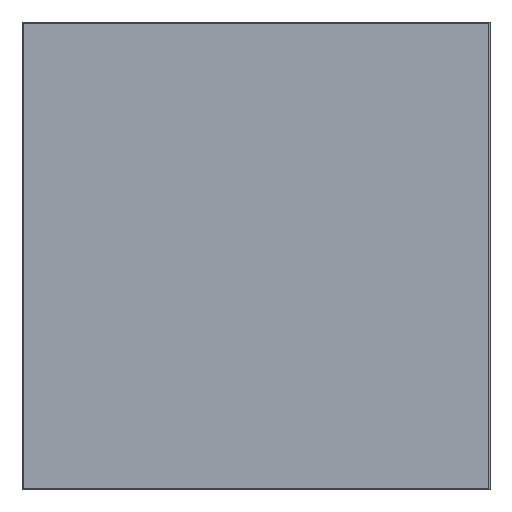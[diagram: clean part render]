
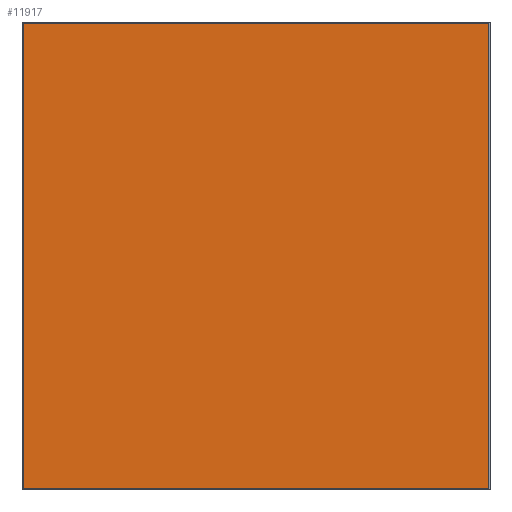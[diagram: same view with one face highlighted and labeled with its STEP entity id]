
A CAD part, top view. The second image highlights one B-rep face of the part: STEP entity #11917.
In plain terms, the highlighted planar face has unit normal (0, 0, 1).
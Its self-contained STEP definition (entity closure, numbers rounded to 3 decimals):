
#11878=CARTESIAN_POINT('',(0.,0.,20.));
#11879=DIRECTION('',(1.,0.,0.));
#11880=DIRECTION('',(0.,0.,1.));
#11881=AXIS2_PLACEMENT_3D('',#11878,#11880,#11879);
#11882=PLANE('',#11881);
#11883=CARTESIAN_POINT('',(348.5,-348.5,20.));
#11884=VERTEX_POINT('',#11883);
#11885=CARTESIAN_POINT('',(348.5,348.5,20.));
#11886=VERTEX_POINT('',#11885);
#11887=CARTESIAN_POINT('',(348.5,-348.5,20.));
#11888=DIRECTION('',(0.,1.,0.));
#11889=VECTOR('',#11888,697.);
#11890=LINE('',#11887,#11889);
#11891=EDGE_CURVE('',#11884,#11886,#11890,.T.);
#11892=ORIENTED_EDGE('E118',*,*,#11891,.T.);
#11893=CARTESIAN_POINT('',(-348.5,348.5,20.));
#11894=VERTEX_POINT('',#11893);
#11895=CARTESIAN_POINT('',(348.5,348.5,20.));
#11896=DIRECTION('',(-1.,0.,0.));
#11897=VECTOR('',#11896,697.);
#11898=LINE('',#11895,#11897);
#11899=EDGE_CURVE('',#11886,#11894,#11898,.T.);
#11900=ORIENTED_EDGE('E119',*,*,#11899,.T.);
#11901=CARTESIAN_POINT('',(-348.5,-348.5,20.));
#11902=VERTEX_POINT('',#11901);
#11903=CARTESIAN_POINT('',(-348.5,348.5,20.));
#11904=DIRECTION('',(0.,-1.,0.));
#11905=VECTOR('',#11904,697.);
#11906=LINE('',#11903,#11905);
#11907=EDGE_CURVE('',#11894,#11902,#11906,.T.);
#11908=ORIENTED_EDGE('E120',*,*,#11907,.T.);
#11909=CARTESIAN_POINT('',(-348.5,-348.5,20.));
#11910=DIRECTION('',(1.,0.,0.));
#11911=VECTOR('',#11910,697.);
#11912=LINE('',#11909,#11911);
#11913=EDGE_CURVE('',#11902,#11884,#11912,.T.);
#11914=ORIENTED_EDGE('E117',*,*,#11913,.T.);
#11915=EDGE_LOOP('',(#11892,#11900,#11908,#11914));
#11916=FACE_OUTER_BOUND('',#11915,.T.);
#11917=ADVANCED_FACE('F2',(#11916),#11882,.T.);
